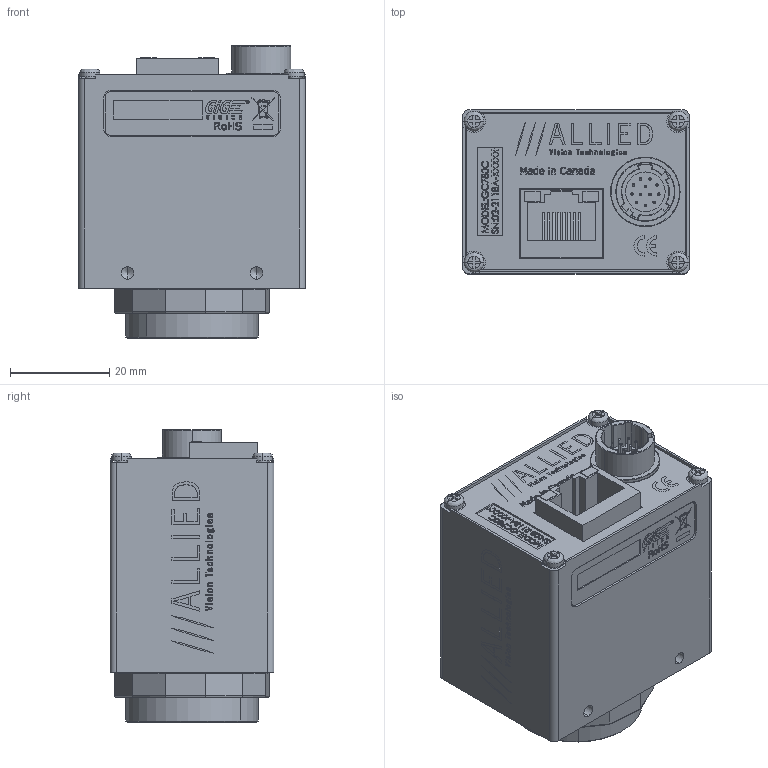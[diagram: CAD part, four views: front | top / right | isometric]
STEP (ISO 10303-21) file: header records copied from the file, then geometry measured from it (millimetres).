
FILE_DESCRIPTION (( 'STEP AP214' ), '1' );
FILE_NAME ('GC780C.STEP', '2013-07-31T16:49:11', ( '' ), ( '' ), 'SwSTEP 2.0', 'SolidWorks 2013', '' );
FILE_SCHEMA (( 'AUTOMOTIVE_DESIGN' ));
Length unit declared in the file: millimetre
Products named in the file (24): Sony ICX415 WINDOW; 110042C GC-CCD FRONT_Finished with logo; 260034-HIROSE HR10A-10R-12PB; 110043A GC BACK PLATE; PEM STANDOFF SO-M3-6; 110043A GC BACK PLATE - WO HW; 740123A-GC MAC LABEL; 140023-SCREW SKT CAP M2x10 SS; 100097A-IR FILTER ASSEMBLY 0.75 INCH; 440002-IR CUT FILTER 22MM DIA; 110054AB-IR FILTER SUPPORT; 140013-washer spring lock M2; 200047A-A GC INTERFACE PCB ASSY; 110031A-B EC-CCD LOCKING RING; 260033-AMPHENOL RJHS-3381; 740032B-GC MAIN LABEL; 140017-SCREW PAN M2x4 SS; 740104A-A GC780C LABEL PRINT; 110003AC-CV CMOUNT RING; 110045B-EC-CCD DUST SHIELD GASKET; 200118A-GC780C PCB ASSY; GC780C; 220155-SONY ICX415AQ; Sony ICX415 BODY
Assembly tree (28 placements, depth 4):
  GC780C
    110003AC-CV CMOUNT RING
    140017-SCREW PAN M2x4 SS  x4
    200047A-A GC INTERFACE PCB ASSY
      260033-AMPHENOL RJHS-3381
    140013-washer spring lock M2  x2
    100097A-IR FILTER ASSEMBLY 0.75 INCH
      110054AB-IR FILTER SUPPORT
      440002-IR CUT FILTER 22MM DIA
    140023-SCREW SKT CAP M2x10 SS  x2
    740123A-GC MAC LABEL
    110043A GC BACK PLATE
      110043A GC BACK PLATE - WO HW
      PEM STANDOFF SO-M3-6
    260034-HIROSE HR10A-10R-12PB
    110042C GC-CCD FRONT_Finished with logo
    200118A-GC780C PCB ASSY
      220155-SONY ICX415AQ
        Sony ICX415 WINDOW
        Sony ICX415 BODY
    110045B-EC-CCD DUST SHIELD GASKET
    740104A-A GC780C LABEL PRINT
    740032B-GC MAIN LABEL
    110031A-B EC-CCD LOCKING RING
Bounding box: 45.72 x 33.02 x 58.96 mm (x, y, z)
Volume: 23164.5 mm3; surface area: 33761.5 mm2
Topology: 23 solids, 23 shells, 3269 faces, 8579 edges, 5576 vertices
Faces by surface type: plane 1854, bspline 919, cylinder 302, cone 194
Entity records: 165443 total; most frequent: CARTESIAN_POINT 57629, ORIENTED_EDGE 16478, DIRECTION 11789, EDGE_CURVE 8239, LINE 5643, VECTOR 5643, VERTEX_POINT 5406, EDGE_LOOP 3507
